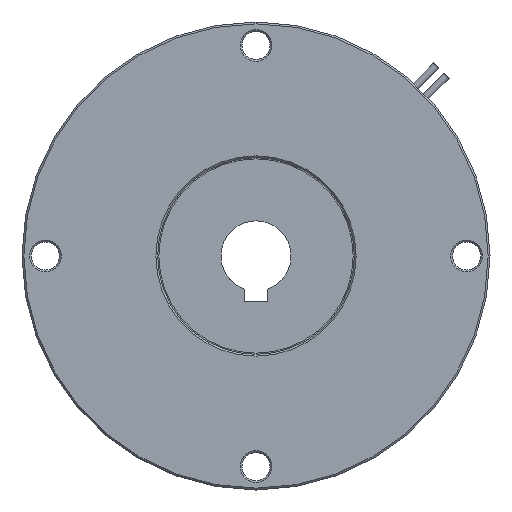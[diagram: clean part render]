
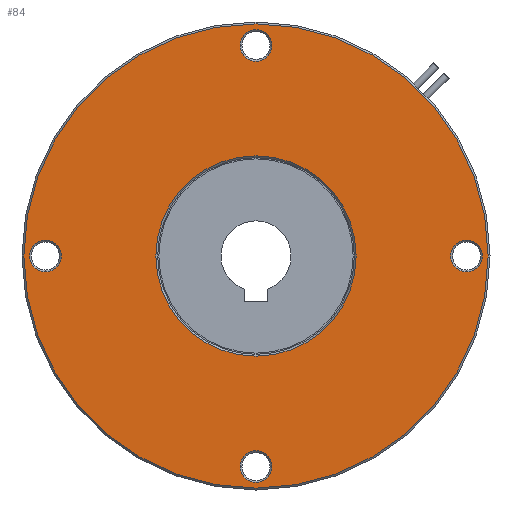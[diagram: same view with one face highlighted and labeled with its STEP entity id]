
A CAD part, front view. The second image highlights one B-rep face of the part: STEP entity #84.
In plain terms, the highlighted planar face has unit normal (0, -1, 0).
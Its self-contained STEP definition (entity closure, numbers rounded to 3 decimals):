
#84 = ADVANCED_FACE ( 'NONE', ( #7553, #4761, #2397, #218, #1504, #5265 ), #6172, .F. ) ;
#111 = CIRCLE ( 'NONE', #1683, 3.4 ) ;
#162 = DIRECTION ( 'NONE',  ( -1., 0., 0. ) ) ;
#198 = CARTESIAN_POINT ( 'NONE',  ( -21.4, 0., 0. ) ) ;
#218 = FACE_BOUND ( 'NONE', #1421, .T. ) ;
#262 = ORIENTED_EDGE ( 'NONE', *, *, #6699, .T. ) ;
#342 = CARTESIAN_POINT ( 'NONE',  ( -45., 0., 0. ) ) ;
#410 = DIRECTION ( 'NONE',  ( 0., 1., 0. ) ) ;
#467 = EDGE_CURVE ( 'NONE', #7060, #6640, #7175, .T. ) ;
#475 = DIRECTION ( 'NONE',  ( 0., 1., 0. ) ) ;
#587 = EDGE_CURVE ( 'NONE', #9208, #8474, #6914, .T. ) ;
#918 = DIRECTION ( 'NONE',  ( 0., 1., 0. ) ) ;
#921 = CARTESIAN_POINT ( 'NONE',  ( -45., 0., 3.4 ) ) ;
#931 = CARTESIAN_POINT ( 'NONE',  ( 0., 0., 0. ) ) ;
#934 = ORIENTED_EDGE ( 'NONE', *, *, #10423, .T. ) ;
#1016 = DIRECTION ( 'NONE',  ( 0., 1., 0. ) ) ;
#1177 = VERTEX_POINT ( 'NONE', #921 ) ;
#1359 = AXIS2_PLACEMENT_3D ( 'NONE', #7381, #8248, #2692 ) ;
#1399 = EDGE_CURVE ( 'NONE', #1177, #10288, #7422, .T. ) ;
#1421 = EDGE_LOOP ( 'NONE', ( #6453, #262 ) ) ;
#1466 = CARTESIAN_POINT ( 'NONE',  ( 0., 0., 0. ) ) ;
#1504 = FACE_BOUND ( 'NONE', #8245, .T. ) ;
#1573 = CARTESIAN_POINT ( 'NONE',  ( -45., 0., -3.4 ) ) ;
#1667 = DIRECTION ( 'NONE',  ( -1., 0., 0. ) ) ;
#1683 = AXIS2_PLACEMENT_3D ( 'NONE', #3853, #9409, #9439 ) ;
#1703 = CARTESIAN_POINT ( 'NONE',  ( 45., 0., 0. ) ) ;
#1749 = DIRECTION ( 'NONE',  ( 0., 1., 0. ) ) ;
#1767 = CARTESIAN_POINT ( 'NONE',  ( -3.4, 0., 45. ) ) ;
#1852 = EDGE_CURVE ( 'NONE', #10288, #1177, #8411, .T. ) ;
#1855 = CARTESIAN_POINT ( 'NONE',  ( 0., 0., -45. ) ) ;
#2183 = DIRECTION ( 'NONE',  ( 0., 1., 0. ) ) ;
#2220 = EDGE_CURVE ( 'NONE', #4079, #5826, #111, .T. ) ;
#2279 = AXIS2_PLACEMENT_3D ( 'NONE', #7999, #8809, #9528 ) ;
#2366 = ORIENTED_EDGE ( 'NONE', *, *, #3126, .T. ) ;
#2392 = CIRCLE ( 'NONE', #6811, 3.4 ) ;
#2397 = FACE_BOUND ( 'NONE', #7118, .T. ) ;
#2692 = DIRECTION ( 'NONE',  ( -1., 0., 0. ) ) ;
#2892 = DIRECTION ( 'NONE',  ( -1., 0., 0. ) ) ;
#2978 = DIRECTION ( 'NONE',  ( -1., 0., 0. ) ) ;
#3048 = CIRCLE ( 'NONE', #8117, 21.4 ) ;
#3126 = EDGE_CURVE ( 'NONE', #5826, #4079, #2392, .T. ) ;
#3236 = VERTEX_POINT ( 'NONE', #9635 ) ;
#3284 = AXIS2_PLACEMENT_3D ( 'NONE', #1466, #918, #5206 ) ;
#3427 = VERTEX_POINT ( 'NONE', #9644 ) ;
#3581 = ORIENTED_EDGE ( 'NONE', *, *, #1399, .T. ) ;
#3625 = AXIS2_PLACEMENT_3D ( 'NONE', #7511, #1016, #162 ) ;
#3853 = CARTESIAN_POINT ( 'NONE',  ( 0., 0., 45. ) ) ;
#3873 = CARTESIAN_POINT ( 'NONE',  ( 3.4, 0., 45. ) ) ;
#3879 = CARTESIAN_POINT ( 'NONE',  ( 21.4, 0., 0. ) ) ;
#3882 = AXIS2_PLACEMENT_3D ( 'NONE', #6361, #6289, #6330 ) ;
#4079 = VERTEX_POINT ( 'NONE', #3873 ) ;
#4530 = ORIENTED_EDGE ( 'NONE', *, *, #2220, .T. ) ;
#4761 = FACE_OUTER_BOUND ( 'NONE', #6901, .T. ) ;
#4781 = DIRECTION ( 'NONE',  ( 0., -1., 0. ) ) ;
#4882 = EDGE_CURVE ( 'NONE', #6640, #7060, #5604, .T. ) ;
#4971 = AXIS2_PLACEMENT_3D ( 'NONE', #342, #410, #2892 ) ;
#5206 = DIRECTION ( 'NONE',  ( -1., 0., 0. ) ) ;
#5265 = FACE_BOUND ( 'NONE', #6920, .T. ) ;
#5332 = ORIENTED_EDGE ( 'NONE', *, *, #1852, .T. ) ;
#5560 = AXIS2_PLACEMENT_3D ( 'NONE', #1703, #5669, #1667 ) ;
#5604 = CIRCLE ( 'NONE', #7039, 3.4 ) ;
#5669 = DIRECTION ( 'NONE',  ( 0., 1., 0. ) ) ;
#5751 = EDGE_CURVE ( 'NONE', #3236, #8755, #6584, .T. ) ;
#5763 = EDGE_CURVE ( 'NONE', #3427, #10262, #6977, .T. ) ;
#5826 = VERTEX_POINT ( 'NONE', #1767 ) ;
#5890 = ORIENTED_EDGE ( 'NONE', *, *, #587, .T. ) ;
#5930 = DIRECTION ( 'NONE',  ( -1., 0., 0. ) ) ;
#6167 = AXIS2_PLACEMENT_3D ( 'NONE', #6265, #4781, #7106 ) ;
#6172 = PLANE ( 'NONE',  #8384 ) ;
#6265 = CARTESIAN_POINT ( 'NONE',  ( 0., 0., 0. ) ) ;
#6289 = DIRECTION ( 'NONE',  ( 0., -1., 0. ) ) ;
#6330 = DIRECTION ( 'NONE',  ( -1., 0., 0. ) ) ;
#6361 = CARTESIAN_POINT ( 'NONE',  ( 0., 0., 0. ) ) ;
#6453 = ORIENTED_EDGE ( 'NONE', *, *, #5751, .T. ) ;
#6584 = CIRCLE ( 'NONE', #2279, 3.4 ) ;
#6640 = VERTEX_POINT ( 'NONE', #8778 ) ;
#6699 = EDGE_CURVE ( 'NONE', #8755, #3236, #9218, .T. ) ;
#6811 = AXIS2_PLACEMENT_3D ( 'NONE', #7785, #475, #9321 ) ;
#6901 = EDGE_LOOP ( 'NONE', ( #7352, #10286 ) ) ;
#6914 = CIRCLE ( 'NONE', #3284, 21.4 ) ;
#6920 = EDGE_LOOP ( 'NONE', ( #5332, #3581 ) ) ;
#6977 = CIRCLE ( 'NONE', #6167, 49.6 ) ;
#7039 = AXIS2_PLACEMENT_3D ( 'NONE', #1855, #9891, #5930 ) ;
#7060 = VERTEX_POINT ( 'NONE', #10107 ) ;
#7106 = DIRECTION ( 'NONE',  ( -1., 0., 0. ) ) ;
#7118 = EDGE_LOOP ( 'NONE', ( #4530, #2366 ) ) ;
#7133 = EDGE_CURVE ( 'NONE', #10262, #3427, #7346, .T. ) ;
#7175 = CIRCLE ( 'NONE', #1359, 3.4 ) ;
#7346 = CIRCLE ( 'NONE', #3882, 49.6 ) ;
#7352 = ORIENTED_EDGE ( 'NONE', *, *, #5763, .T. ) ;
#7381 = CARTESIAN_POINT ( 'NONE',  ( 0., 0., -45. ) ) ;
#7399 = DIRECTION ( 'NONE',  ( -1., 0., 0. ) ) ;
#7422 = CIRCLE ( 'NONE', #4971, 3.4 ) ;
#7511 = CARTESIAN_POINT ( 'NONE',  ( -45., 0., 0. ) ) ;
#7553 = FACE_BOUND ( 'NONE', #8268, .T. ) ;
#7702 = CARTESIAN_POINT ( 'NONE',  ( 21., 0., 0. ) ) ;
#7785 = CARTESIAN_POINT ( 'NONE',  ( 0., 0., 45. ) ) ;
#7999 = CARTESIAN_POINT ( 'NONE',  ( 45., 0., 0. ) ) ;
#8117 = AXIS2_PLACEMENT_3D ( 'NONE', #931, #1749, #7399 ) ;
#8245 = EDGE_LOOP ( 'NONE', ( #9931, #10456 ) ) ;
#8248 = DIRECTION ( 'NONE',  ( 0., 1., 0. ) ) ;
#8268 = EDGE_LOOP ( 'NONE', ( #5890, #934 ) ) ;
#8384 = AXIS2_PLACEMENT_3D ( 'NONE', #7702, #2183, #2978 ) ;
#8411 = CIRCLE ( 'NONE', #3625, 3.4 ) ;
#8474 = VERTEX_POINT ( 'NONE', #198 ) ;
#8755 = VERTEX_POINT ( 'NONE', #9458 ) ;
#8778 = CARTESIAN_POINT ( 'NONE',  ( -3.4, 0., -45. ) ) ;
#8809 = DIRECTION ( 'NONE',  ( 0., 1., 0. ) ) ;
#9208 = VERTEX_POINT ( 'NONE', #3879 ) ;
#9218 = CIRCLE ( 'NONE', #5560, 3.4 ) ;
#9321 = DIRECTION ( 'NONE',  ( -1., 0., 0. ) ) ;
#9409 = DIRECTION ( 'NONE',  ( 0., 1., 0. ) ) ;
#9439 = DIRECTION ( 'NONE',  ( -1., 0., 0. ) ) ;
#9458 = CARTESIAN_POINT ( 'NONE',  ( 45., 0., 3.4 ) ) ;
#9528 = DIRECTION ( 'NONE',  ( -1., 0., 0. ) ) ;
#9584 = CARTESIAN_POINT ( 'NONE',  ( 49.6, 0., 0. ) ) ;
#9635 = CARTESIAN_POINT ( 'NONE',  ( 45., 0., -3.4 ) ) ;
#9644 = CARTESIAN_POINT ( 'NONE',  ( -49.6, 0., 0. ) ) ;
#9891 = DIRECTION ( 'NONE',  ( 0., 1., 0. ) ) ;
#9931 = ORIENTED_EDGE ( 'NONE', *, *, #467, .T. ) ;
#10107 = CARTESIAN_POINT ( 'NONE',  ( 3.4, 0., -45. ) ) ;
#10262 = VERTEX_POINT ( 'NONE', #9584 ) ;
#10286 = ORIENTED_EDGE ( 'NONE', *, *, #7133, .T. ) ;
#10288 = VERTEX_POINT ( 'NONE', #1573 ) ;
#10423 = EDGE_CURVE ( 'NONE', #8474, #9208, #3048, .T. ) ;
#10456 = ORIENTED_EDGE ( 'NONE', *, *, #4882, .T. ) ;
